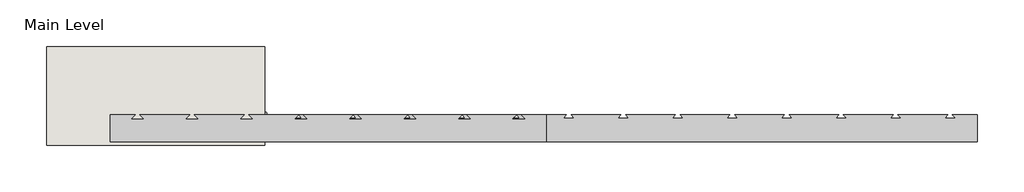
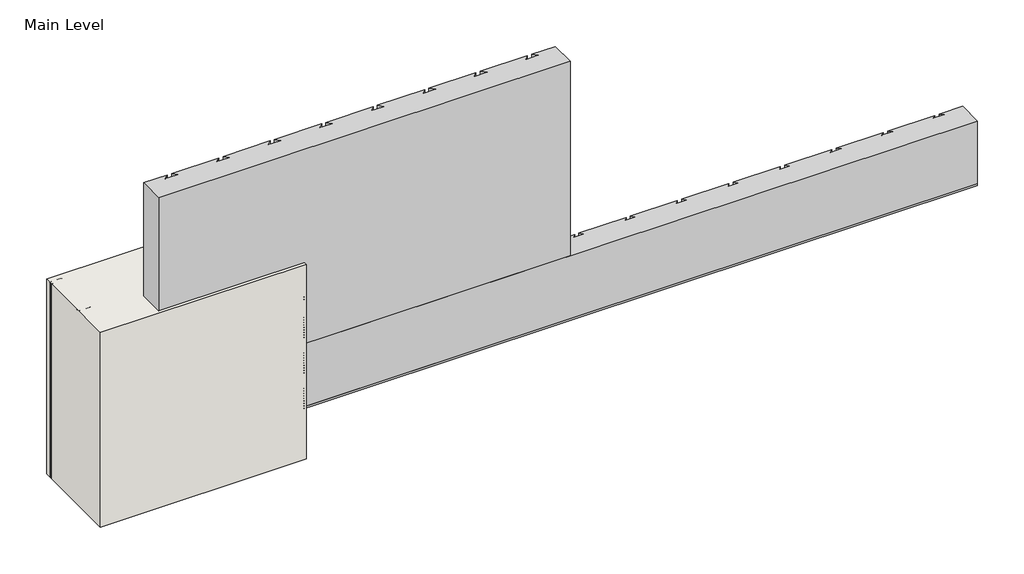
# One storey, incomplete: 11 proxies, 1 wall.
"""IFC4 building model written with IfcOpenShell, lengths in millimetres."""

from ifc_helpers import new_model, si_unit, origin, origin_with_axes, place, context, project, spatial, polyline, outline, extrude, transform, mapped, element, save
from components import generic_models_f9e3ba3a, generic_models_6aeff0d6, generic_models_a7b0360c, generic_models_f109a2ff, generic_models_8dcf8eaa, generic_models_31547c53, generic_models_4ceaeb6f, proxy_998bcb27, proxy_b027fc18

model = new_model("IFC4")

# Units and contexts
model_context = context("Model", 3, world=origin())
ifc_project = project(units=[si_unit("LENGTHUNIT", "METRE", prefix="MILLI")], contexts=[model_context])

# Site, building, storey
site = spatial("IfcSite", under=ifc_project)
building = spatial("IfcBuilding", under=site)
storey = spatial("IfcBuildingStorey", under=building, Name="Main Level", Elevation=0.0)

# Proxies
placement = place(None, origin())
generic_models_shape = generic_models_f9e3ba3a(model_context)
element("IfcBuildingElementProxy", 1, Name="Durabond Generic Model Insulation Adhesive Flat : Durabond Generic Model Insulation Adhesive Flat", ObjectType="Durabond Generic Model Insulation Adhesive Flat : Durabond Generic Model Insulation Adhesive Flat", at=placement, inside=storey, context=model_context, shape_type="MappedRepresentation", body=[
    mapped(generic_models_shape, transform((26705.0726773, 627.6316297, 215.9), x_axis=(1.0, 0.0, 0.0), y_axis=(0.0, 1.0, 0.0), z_axis=(0.0, 0.0, 1.0))),
])
element("IfcBuildingElementProxy", 2, Name="Durabond Generic Model Insulation Adhesive Flat : Durabond Generic Model Insulation Adhesive Flat", ObjectType="Durabond Generic Model Insulation Adhesive Flat : Durabond Generic Model Insulation Adhesive Flat", at=placement, inside=storey, context=model_context, shape_type="MappedRepresentation", body=[
    mapped(generic_models_shape, transform((26781.2726773, 627.6316297, 215.9), x_axis=(1.0, 0.0, 0.0), y_axis=(0.0, 1.0, 0.0), z_axis=(0.0, 0.0, 1.0))),
])
element("IfcBuildingElementProxy", 3, Name="Durabond Generic Model Insulation Adhesive Flat : Durabond Generic Model Insulation Adhesive Flat", ObjectType="Durabond Generic Model Insulation Adhesive Flat : Durabond Generic Model Insulation Adhesive Flat", at=placement, inside=storey, context=model_context, shape_type="MappedRepresentation", body=[
    mapped(generic_models_shape, transform((26857.4726773, 627.6316297, 215.9), x_axis=(1.0, 0.0, 0.0), y_axis=(0.0, 1.0, 0.0), z_axis=(0.0, 0.0, 1.0))),
])
element("IfcBuildingElementProxy", 4, Name="Durabond Generic Model Insulation Adhesive Flat : Durabond Generic Model Insulation Adhesive Flat", ObjectType="Durabond Generic Model Insulation Adhesive Flat : Durabond Generic Model Insulation Adhesive Flat", at=placement, inside=storey, context=model_context, shape_type="MappedRepresentation", body=[
    mapped(generic_models_shape, transform((26933.6726773, 627.6316297, 215.9), x_axis=(1.0, 0.0, 0.0), y_axis=(0.0, 1.0, 0.0), z_axis=(0.0, 0.0, 1.0))),
])
element("IfcBuildingElementProxy", 5, Name="Durabond Generic Model Insulation Adhesive Flat : Durabond Generic Model Insulation Adhesive Flat", ObjectType="Durabond Generic Model Insulation Adhesive Flat : Durabond Generic Model Insulation Adhesive Flat", at=placement, inside=storey, context=model_context, shape_type="MappedRepresentation", body=[
    mapped(generic_models_shape, transform((27009.8726773, 627.6316297, 215.9), x_axis=(1.0, 0.0, 0.0), y_axis=(0.0, 1.0, 0.0), z_axis=(0.0, 0.0, 1.0))),
])
element("IfcBuildingElementProxy", 6, Name="Durabond Generic Model Insulation Adhesive Flat : Durabond Generic Model Insulation Adhesive Flat", ObjectType="Durabond Generic Model Insulation Adhesive Flat : Durabond Generic Model Insulation Adhesive Flat", at=placement, inside=storey, context=model_context, shape_type="MappedRepresentation", body=[
    mapped(generic_models_shape, transform((27086.0726773, 627.6316297, 215.9), x_axis=(1.0, 0.0, 0.0), y_axis=(0.0, 1.0, 0.0), z_axis=(0.0, 0.0, 1.0))),
])
generic_models_2_shape = generic_models_6aeff0d6(model_context)
generic_models_3_shape = generic_models_a7b0360c(model_context)
generic_models_4_shape = generic_models_f109a2ff(model_context)
generic_models_5_shape = generic_models_8dcf8eaa(model_context)
element("IfcBuildingElementProxy", 7, Name="CRAi Generic Model Mesh Piece Face Based : CRAi Generic Model Mesh Piece Face Based", ObjectType="CRAi Generic Model Mesh Piece Face Based : CRAi Generic Model Mesh Piece Face Based", at=placement, inside=storey, context=model_context, shape_type="MappedRepresentation", body=[
    mapped(generic_models_2_shape, transform((26933.6726773, 541.9066297, 330.2), x_axis=(-1.0, 0.0, 0.0), y_axis=(0.0, 0.0, -1.0), z_axis=(0.0, -1.0, 0.0))),
    mapped(generic_models_3_shape, transform((26933.6726773, 541.9066297, 330.2), x_axis=(-1.0, 0.0, 0.0), y_axis=(0.0, 0.0, -1.0), z_axis=(0.0, -1.0, 0.0))),
    mapped(generic_models_4_shape, transform((26933.6726773, 541.9066297, 330.2), x_axis=(-1.0, 0.0, 0.0), y_axis=(0.0, 0.0, -1.0), z_axis=(0.0, -1.0, 0.0))),
    mapped(generic_models_5_shape, transform((26933.6726773, 541.9066297, 330.2), x_axis=(-1.0, 0.0, 0.0), y_axis=(0.0, 0.0, -1.0), z_axis=(0.0, -1.0, 0.0))),
])
generic_models_6_shape = generic_models_31547c53(model_context)
element("IfcBuildingElementProxy", 8, Name="Durabond Generic Model Sealant Vent : Durabond Generic Model Sealant Vent", ObjectType="Durabond Generic Model Sealant Vent : Durabond Generic Model Sealant Vent", at=placement, inside=storey, context=model_context, shape_type="MappedRepresentation", body=[
    mapped(generic_models_6_shape, transform((26878.1101773, 570.4816297, 146.84375), x_axis=(1.0, 0.0, 0.0), y_axis=(0.0, 0.0, 1.0), z_axis=(0.0, -1.0, 0.0))),
])
generic_models_7_shape = generic_models_4ceaeb6f(model_context)
element("IfcBuildingElementProxy", 9, Name="CRAi Generic Model Metal Stud Array : CRAi Generic Model Metal Stud Array", ObjectType="CRAi Generic Model Metal Stud Array : CRAi Generic Model Metal Stud Array", at=placement, inside=storey, context=model_context, shape_type="MappedRepresentation", body=[
    mapped(generic_models_7_shape, transform((26692.3726773, 726.0566297, 0.0), x_axis=(-1.0, 0.0, 0.0), y_axis=(0.0, -1.0, 0.0), z_axis=(0.0, 0.0, 1.0))),
])
proxy_shape = proxy_998bcb27(model_context)
element("IfcBuildingElementProxy", 10, Name="Durabond Generic Model Flexlite Insulation Board : 3\"", ObjectType="Durabond Generic Model Flexlite Insulation Board : 3\"", at=placement, inside=storey, context=model_context, shape_type="MappedRepresentation", body=[
    mapped(proxy_shape, transform((27276.5726773, 624.4566297, 660.4), x_axis=(1.0, 0.0, 0.0), y_axis=(0.0, 0.0, 1.0), z_axis=(0.0, -1.0, 0.0))),
])
proxy_2_shape = proxy_b027fc18(model_context)
element("IfcBuildingElementProxy", 11, Name="Durabond Generic Model Flexlite Vent Board : 3\"", ObjectType="Durabond Generic Model Flexlite Vent Board : 3\"", at=placement, inside=storey, context=model_context, shape_type="MappedRepresentation", body=[
    mapped(proxy_2_shape, transform((27873.4726773, 624.4566297, 254.0), x_axis=(1.0, 0.0, 0.0), y_axis=(0.0, 0.0, 1.0), z_axis=(0.0, -1.0, 0.0))),
])

# Wall
element("IfcWall", 12, ObjectType="189mm (7.5”) EIFS Field Applied on Mtl. Stud Layer - 50mm Grooved Insulation Board Metal Stud Wall (AirStop)", at=placement, inside=storey, context=model_context, shape_type="SweptSolid", body=[
    extrude(outline(polyline([(27098.7726773, 538.7316297), (26489.1726773, 538.7316297), (26489.1726773, 814.9566297), (27098.7726773, 814.9566297), (27098.7726773, 538.7316297)])), origin_with_axes(), (0.0, 0.0, 1.0), 609.6),
])

save(model, "model.ifc")
